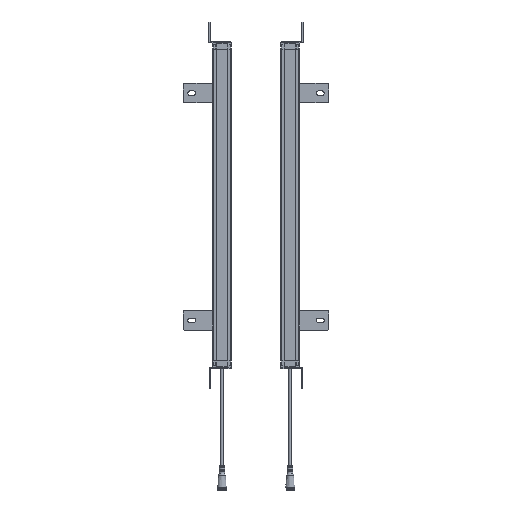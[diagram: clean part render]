
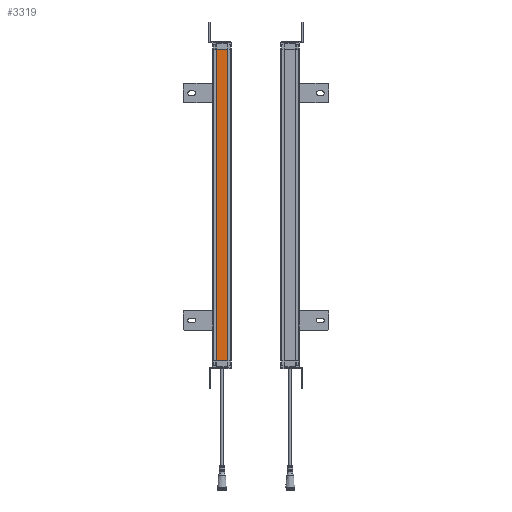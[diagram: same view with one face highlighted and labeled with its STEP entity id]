
A CAD part, left-side view. The second image highlights one B-rep face of the part: STEP entity #3319.
In plain terms, the highlighted planar face has unit normal (-1, 0, 0).
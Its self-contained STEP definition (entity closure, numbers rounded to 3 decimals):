
#1795=FACE_OUTER_BOUND('',#5986,.T.);
#3319=ADVANCED_FACE('',(#1795),#4749,.T.);
#4749=PLANE('',#29857);
#5986=EDGE_LOOP('',(#9184,#9185,#9186,#9187));
#9184=ORIENTED_EDGE('',*,*,#19383,.F.);
#9185=ORIENTED_EDGE('',*,*,#19072,.T.);
#9186=ORIENTED_EDGE('',*,*,#19385,.T.);
#9187=ORIENTED_EDGE('',*,*,#19386,.F.);
#16145=VERTEX_POINT('',#43699);
#16146=VERTEX_POINT('',#43701);
#16357=VERTEX_POINT('',#44323);
#16358=VERTEX_POINT('',#44327);
#19072=EDGE_CURVE('',#16146,#16145,#24663,.T.);
#19383=EDGE_CURVE('',#16146,#16357,#24884,.T.);
#19385=EDGE_CURVE('',#16145,#16358,#24886,.T.);
#19386=EDGE_CURVE('',#16357,#16358,#24887,.T.);
#24663=LINE('',#43700,#27142);
#24884=LINE('',#44322,#27363);
#24886=LINE('',#44326,#27365);
#24887=LINE('',#44328,#27366);
#27142=VECTOR('',#33404,1.);
#27363=VECTOR('',#34005,1.);
#27365=VECTOR('',#34009,1.);
#27366=VECTOR('',#34010,1.);
#29857=AXIS2_PLACEMENT_3D('',#44329,#34011,#34012);
#33404=DIRECTION('',(0.,1.,0.));
#34005=DIRECTION('',(0.,0.,-1.));
#34009=DIRECTION('',(0.,0.,-1.));
#34010=DIRECTION('',(0.,1.,0.));
#34011=DIRECTION('',(-1.,0.,0.));
#34012=DIRECTION('',(0.,-1.,0.));
#43699=CARTESIAN_POINT('',(50.4,-5.5,438.059));
#43700=CARTESIAN_POINT('',(50.4,-5.5,438.059));
#43701=CARTESIAN_POINT('',(50.4,-23.5,438.059));
#44322=CARTESIAN_POINT('',(50.4,-23.5,103.059));
#44323=CARTESIAN_POINT('',(50.4,-23.5,-41.941));
#44326=CARTESIAN_POINT('',(50.4,-5.5,103.059));
#44327=CARTESIAN_POINT('',(50.4,-5.5,-41.941));
#44328=CARTESIAN_POINT('',(50.4,-23.5,-41.941));
#44329=CARTESIAN_POINT('',(50.4,-5.5,-61.941));
